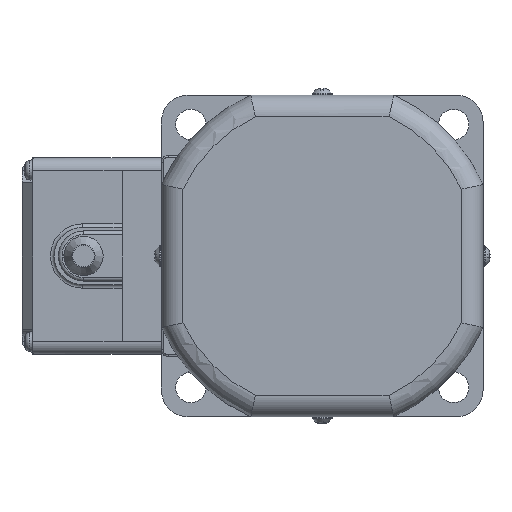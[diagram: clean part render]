
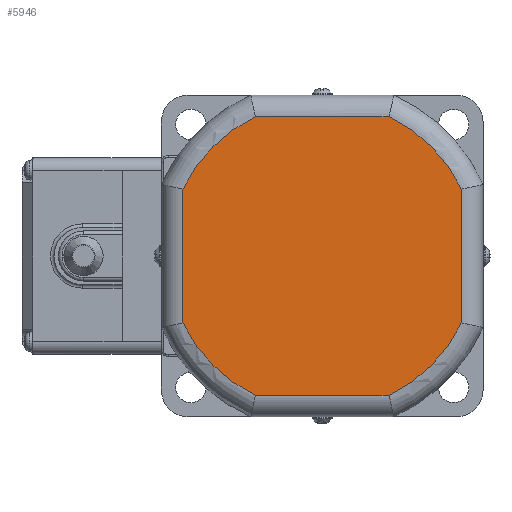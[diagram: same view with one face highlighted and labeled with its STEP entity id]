
A CAD part, left-side view. The second image highlights one B-rep face of the part: STEP entity #5946.
In plain terms, the highlighted planar face has unit normal (-1, 0, 0).
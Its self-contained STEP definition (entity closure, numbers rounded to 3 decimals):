
#376=LINE('',#9519,#757);
#377=LINE('',#9523,#758);
#378=LINE('',#9527,#759);
#379=LINE('',#9531,#760);
#757=VECTOR('',#7216,37.393);
#758=VECTOR('',#7219,37.393);
#759=VECTOR('',#7222,37.393);
#760=VECTOR('',#7225,37.393);
#1341=FACE_OUTER_BOUND('',#1722,.T.);
#1722=EDGE_LOOP('',(#4132,#4133,#4134,#4135,#4136,#4137,#4138,#4139));
#2093=CIRCLE('',#6358,43.25);
#2094=CIRCLE('',#6359,43.25);
#2095=CIRCLE('',#6360,43.25);
#2096=CIRCLE('',#6361,43.25);
#2450=VERTEX_POINT('',#9517);
#2451=VERTEX_POINT('',#9518);
#2452=VERTEX_POINT('',#9520);
#2453=VERTEX_POINT('',#9522);
#2454=VERTEX_POINT('',#9524);
#2455=VERTEX_POINT('',#9526);
#2456=VERTEX_POINT('',#9528);
#2457=VERTEX_POINT('',#9530);
#3090=EDGE_CURVE('',#2450,#2451,#376,.T.);
#3091=EDGE_CURVE('',#2452,#2450,#2093,.T.);
#3092=EDGE_CURVE('',#2453,#2452,#377,.T.);
#3093=EDGE_CURVE('',#2454,#2453,#2094,.T.);
#3094=EDGE_CURVE('',#2455,#2454,#378,.T.);
#3095=EDGE_CURVE('',#2456,#2455,#2095,.T.);
#3096=EDGE_CURVE('',#2457,#2456,#379,.T.);
#3097=EDGE_CURVE('',#2451,#2457,#2096,.T.);
#4132=ORIENTED_EDGE('',*,*,#3090,.F.);
#4133=ORIENTED_EDGE('',*,*,#3091,.F.);
#4134=ORIENTED_EDGE('',*,*,#3092,.F.);
#4135=ORIENTED_EDGE('',*,*,#3093,.F.);
#4136=ORIENTED_EDGE('',*,*,#3094,.F.);
#4137=ORIENTED_EDGE('',*,*,#3095,.F.);
#4138=ORIENTED_EDGE('',*,*,#3096,.F.);
#4139=ORIENTED_EDGE('',*,*,#3097,.F.);
#5484=PLANE('',#6357);
#5946=ADVANCED_FACE('',(#1341),#5484,.F.);
#6357=AXIS2_PLACEMENT_3D('',#9516,#7214,#7215);
#6358=AXIS2_PLACEMENT_3D('',#9521,#7217,#7218);
#6359=AXIS2_PLACEMENT_3D('',#9525,#7220,#7221);
#6360=AXIS2_PLACEMENT_3D('',#9529,#7223,#7224);
#6361=AXIS2_PLACEMENT_3D('',#9532,#7226,#7227);
#7214=DIRECTION('center_axis',(1.,0.,0.));
#7215=DIRECTION('ref_axis',(0.,1.,0.));
#7216=DIRECTION('',(0.,-1.,0.));
#7217=DIRECTION('center_axis',(1.,0.,0.));
#7218=DIRECTION('ref_axis',(0.,0.707,0.707));
#7219=DIRECTION('',(0.,0.,1.));
#7220=DIRECTION('center_axis',(1.,0.,0.));
#7221=DIRECTION('ref_axis',(0.,0.707,-0.707));
#7222=DIRECTION('',(0.,1.,0.));
#7223=DIRECTION('center_axis',(1.,0.,0.));
#7224=DIRECTION('ref_axis',(0.,-0.707,-0.707));
#7225=DIRECTION('',(0.,0.,-1.));
#7226=DIRECTION('center_axis',(1.,0.,0.));
#7227=DIRECTION('ref_axis',(0.,-0.707,0.707));
#9516=CARTESIAN_POINT('Origin',(-17.8,0.,
0.));
#9517=CARTESIAN_POINT('',(-17.8,18.697,39.));
#9518=CARTESIAN_POINT('',(-17.8,-18.697,39.));
#9519=CARTESIAN_POINT('',(-17.8,18.697,39.));
#9520=CARTESIAN_POINT('',(-17.8,39.,18.697));
#9521=CARTESIAN_POINT('Origin',(-17.8,0.,
0.));
#9522=CARTESIAN_POINT('',(-17.8,39.,-18.697));
#9523=CARTESIAN_POINT('',(-17.8,39.,-18.697));
#9524=CARTESIAN_POINT('',(-17.8,18.697,-39.));
#9525=CARTESIAN_POINT('Origin',(-17.8,0.,
0.));
#9526=CARTESIAN_POINT('',(-17.8,-18.697,-39.));
#9527=CARTESIAN_POINT('',(-17.8,-18.697,-39.));
#9528=CARTESIAN_POINT('',(-17.8,-39.,-18.697));
#9529=CARTESIAN_POINT('Origin',(-17.8,0.,
0.));
#9530=CARTESIAN_POINT('',(-17.8,-39.,18.697));
#9531=CARTESIAN_POINT('',(-17.8,-39.,18.697));
#9532=CARTESIAN_POINT('Origin',(-17.8,0.,
0.));
